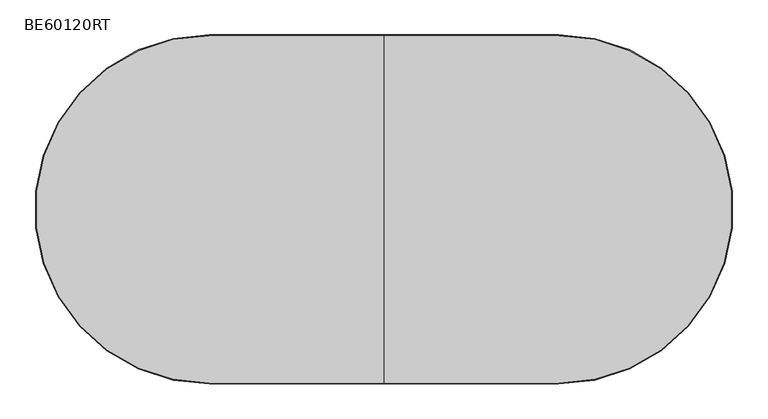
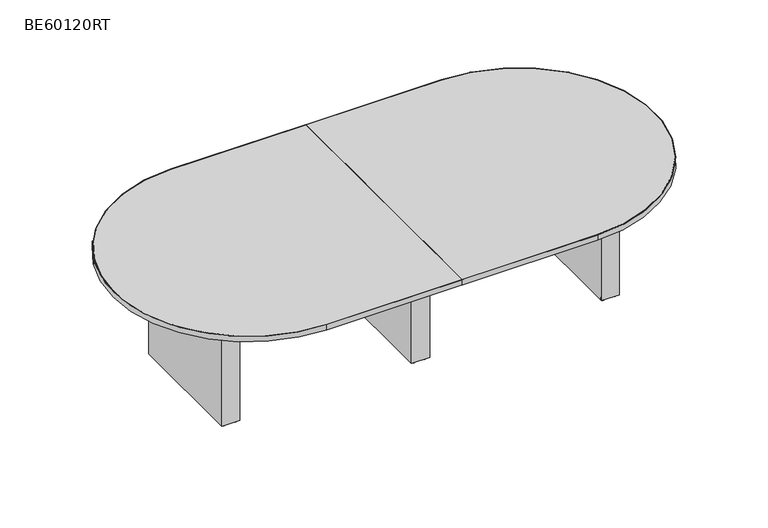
"""IFC4 building model written with IfcOpenShell, lengths in millimetres: furniture geometry, ERG-Beta-Conference_Table-Racetrack : BE60120RT."""

from ifc_helpers import new_model, si_unit, point, frame, frame_2d, origin, origin_with_axes, place, context, project, spatial, polyline, circle_curve, trimmed, segment, composite_curve, outline, extrude, source, transform, mapped, element, save


def be60120rt_78b47af5(model_context):
    return source(origin(), model_context, "Body", "SweptSolid", [
        extrude(outline(composite_curve([segment(trimmed(circle_curve(frame_2d((511.175, 390.276527)), 9.525), [point((501.65, 390.276527))], [point((520.7, 390.276527))], False, "CARTESIAN"), True, "CONTINUOUS"), segment(trimmed(circle_curve(frame_2d((511.175, 390.276527)), 9.525), [point((520.7, 390.276527))], [point((501.65, 390.276527))], False, "CARTESIAN"), True, "CONTINUOUS")], self_intersect=False)), origin_with_axes(), (0.0, 0.0, 1.0), 9.525),
        extrude(outline(composite_curve([segment(trimmed(circle_curve(frame_2d((574.675, 390.276527)), 9.525), [point((565.15, 390.276527))], [point((584.2, 390.276527))], False, "CARTESIAN"), True, "CONTINUOUS"), segment(trimmed(circle_curve(frame_2d((574.675, 390.276527)), 9.525), [point((584.2, 390.276527))], [point((565.15, 390.276527))], False, "CARTESIAN"), True, "CONTINUOUS")], self_intersect=False)), origin_with_axes(), (0.0, 0.0, 1.0), 9.525),
        extrude(outline(composite_curve([segment(trimmed(circle_curve(frame_2d((511.175, -282.823473)), 9.525), [point((501.65, -282.823473))], [point((520.7, -282.823473))], False, "CARTESIAN"), True, "CONTINUOUS"), segment(trimmed(circle_curve(frame_2d((511.175, -282.823473)), 9.525), [point((520.7, -282.823473))], [point((501.65, -282.823473))], False, "CARTESIAN"), True, "CONTINUOUS")], self_intersect=False)), origin_with_axes(), (0.0, 0.0, 1.0), 9.525),
        extrude(outline(composite_curve([segment(trimmed(circle_curve(frame_2d((574.675, -282.823473)), 9.525), [point((565.15, -282.823473))], [point((584.2, -282.823473))], False, "CARTESIAN"), True, "CONTINUOUS"), segment(trimmed(circle_curve(frame_2d((574.675, -282.823473)), 9.525), [point((584.2, -282.823473))], [point((565.15, -282.823473))], False, "CARTESIAN"), True, "CONTINUOUS")], self_intersect=False)), origin_with_axes(), (0.0, 0.0, 1.0), 9.525),
        extrude(outline(polyline([(593.725, 409.326527), (593.725, -301.873473), (492.125, -301.873473), (492.125, 409.326527), (593.725, 409.326527)])), frame((0.0, 0.0, 9.525), z_axis=(0.0, 0.0, 1.0), x_axis=(1.0, 0.0, 0.0)), (0.0, 0.0, 1.0), 695.3249758),
        extrude(outline(composite_curve([segment(trimmed(circle_curve(frame_2d((1577.975, 390.276527)), 9.525), [point((1568.45, 390.276527))], [point((1587.5, 390.276527))], False, "CARTESIAN"), True, "CONTINUOUS"), segment(trimmed(circle_curve(frame_2d((1577.975, 390.276527)), 9.525), [point((1587.5, 390.276527))], [point((1568.45, 390.276527))], False, "CARTESIAN"), True, "CONTINUOUS")], self_intersect=False)), origin_with_axes(), (0.0, 0.0, 1.0), 9.525),
        extrude(outline(composite_curve([segment(trimmed(circle_curve(frame_2d((1641.475, 390.276527)), 9.525), [point((1631.95, 390.276527))], [point((1651.0, 390.276527))], False, "CARTESIAN"), True, "CONTINUOUS"), segment(trimmed(circle_curve(frame_2d((1641.475, 390.276527)), 9.525), [point((1651.0, 390.276527))], [point((1631.95, 390.276527))], False, "CARTESIAN"), True, "CONTINUOUS")], self_intersect=False)), origin_with_axes(), (0.0, 0.0, 1.0), 9.525),
        extrude(outline(composite_curve([segment(trimmed(circle_curve(frame_2d((1577.975, -282.823473)), 9.525), [point((1568.45, -282.823473))], [point((1587.5, -282.823473))], False, "CARTESIAN"), True, "CONTINUOUS"), segment(trimmed(circle_curve(frame_2d((1577.975, -282.823473)), 9.525), [point((1587.5, -282.823473))], [point((1568.45, -282.823473))], False, "CARTESIAN"), True, "CONTINUOUS")], self_intersect=False)), origin_with_axes(), (0.0, 0.0, 1.0), 9.525),
        extrude(outline(composite_curve([segment(trimmed(circle_curve(frame_2d((1641.475, -282.823473)), 9.525), [point((1631.95, -282.823473))], [point((1651.0, -282.823473))], False, "CARTESIAN"), True, "CONTINUOUS"), segment(trimmed(circle_curve(frame_2d((1641.475, -282.823473)), 9.525), [point((1651.0, -282.823473))], [point((1631.95, -282.823473))], False, "CARTESIAN"), True, "CONTINUOUS")], self_intersect=False)), origin_with_axes(), (0.0, 0.0, 1.0), 9.525),
        extrude(outline(polyline([(1660.525, 409.326527), (1660.525, -301.873473), (1558.925, -301.873473), (1558.925, 409.326527), (1660.525, 409.326527)])), frame((0.0, 0.0, 9.525), z_axis=(0.0, 0.0, 1.0), x_axis=(1.0, 0.0, 0.0)), (0.0, 0.0, 1.0), 695.3249758),
        extrude(outline(composite_curve([segment(trimmed(circle_curve(frame_2d((-555.625, 390.276527)), 9.525), [point((-565.15, 390.276527))], [point((-546.1, 390.276527))], False, "CARTESIAN"), True, "CONTINUOUS"), segment(trimmed(circle_curve(frame_2d((-555.625, 390.276527)), 9.525), [point((-546.1, 390.276527))], [point((-565.15, 390.276527))], False, "CARTESIAN"), True, "CONTINUOUS")], self_intersect=False)), origin_with_axes(), (0.0, 0.0, 1.0), 9.525),
        extrude(outline(composite_curve([segment(trimmed(circle_curve(frame_2d((-492.125, 390.276527)), 9.525), [point((-501.65, 390.276527))], [point((-482.6, 390.276527))], False, "CARTESIAN"), True, "CONTINUOUS"), segment(trimmed(circle_curve(frame_2d((-492.125, 390.276527)), 9.525), [point((-482.6, 390.276527))], [point((-501.65, 390.276527))], False, "CARTESIAN"), True, "CONTINUOUS")], self_intersect=False)), origin_with_axes(), (0.0, 0.0, 1.0), 9.525),
        extrude(outline(composite_curve([segment(trimmed(circle_curve(frame_2d((-555.625, -282.823473)), 9.525), [point((-565.15, -282.823473))], [point((-546.1, -282.823473))], False, "CARTESIAN"), True, "CONTINUOUS"), segment(trimmed(circle_curve(frame_2d((-555.625, -282.823473)), 9.525), [point((-546.1, -282.823473))], [point((-565.15, -282.823473))], False, "CARTESIAN"), True, "CONTINUOUS")], self_intersect=False)), origin_with_axes(), (0.0, 0.0, 1.0), 9.525),
        extrude(outline(composite_curve([segment(trimmed(circle_curve(frame_2d((-492.125, -282.823473)), 9.525), [point((-501.65, -282.823473))], [point((-482.6, -282.823473))], False, "CARTESIAN"), True, "CONTINUOUS"), segment(trimmed(circle_curve(frame_2d((-492.125, -282.823473)), 9.525), [point((-482.6, -282.823473))], [point((-501.65, -282.823473))], False, "CARTESIAN"), True, "CONTINUOUS")], self_intersect=False)), origin_with_axes(), (0.0, 0.0, 1.0), 9.525),
        extrude(outline(polyline([(-473.075, 409.326527), (-473.075, -301.873473), (-574.675, -301.873473), (-574.675, 409.326527), (-473.075, 409.326527)])), frame((0.0, 0.0, 9.525), z_axis=(0.0, 0.0, 1.0), x_axis=(1.0, 0.0, 0.0)), (0.0, 0.0, 1.0), 695.3249758),
        extrude(outline(composite_curve([segment(trimmed(circle_curve(frame_2d((1304.925, 53.726527)), 758.825), [point((1304.925, 812.551527))], [point((1304.925, -705.098473))], False, "CARTESIAN"), True, "CONTINUOUS"), segment(polyline([(1304.925, -705.098473), (544.5125, -705.098473), (544.5125, 812.551527), (1304.925, 812.551527)]), True, "CONTINUOUS")], self_intersect=False)), frame((0.0, 0.0, 704.85), z_axis=(0.0, 0.0, 1.0), x_axis=(1.0, 0.0, 0.0)), (0.0, 0.0, 1.0), 31.75),
        extrude(outline(composite_curve([segment(trimmed(circle_curve(frame_2d((-219.075, 53.726527)), 758.825), [point((-219.075, -705.098473))], [point((-219.075, 812.551527))], False, "CARTESIAN"), True, "CONTINUOUS"), segment(polyline([(-219.075, 812.551527), (541.3375, 812.551527), (541.3375, -705.098473), (-219.075, -705.098473)]), True, "CONTINUOUS")], self_intersect=False)), frame((0.0, 0.0, 704.85), z_axis=(0.0, 0.0, 1.0), x_axis=(1.0, 0.0, 0.0)), (0.0, 0.0, 1.0), 31.75),
        extrude(outline(composite_curve([segment(trimmed(circle_curve(frame_2d((1304.925, 53.726527)), 758.825), [point((1304.925, -705.098473))], [point((1304.925, 812.551527))], True, "CARTESIAN"), True, "CONTINUOUS"), segment(polyline([(1304.925, 812.551527), (544.5125, 812.551527), (544.5125, 815.726527), (1304.925, 815.726527)]), True, "CONTINUOUS"), segment(trimmed(circle_curve(frame_2d((1304.925, 53.726527)), 762.0), [point((1304.925, 815.726527))], [point((1304.925, -708.273473))], False, "CARTESIAN"), True, "CONTINUOUS"), segment(polyline([(1304.925, -708.273473), (544.5125, -708.273473), (544.5125, -705.098473), (1304.925, -705.098473)]), True, "CONTINUOUS")], self_intersect=False)), frame((0.0, 0.0, 704.85), z_axis=(0.0, 0.0, 1.0), x_axis=(1.0, 0.0, 0.0)), (0.0, 0.0, 1.0), 31.75),
        extrude(outline(composite_curve([segment(trimmed(circle_curve(frame_2d((-219.075, 53.726527)), 762.0), [point((-219.075, -708.273473))], [point((-219.075, 815.726527))], False, "CARTESIAN"), True, "CONTINUOUS"), segment(polyline([(-219.075, 815.726527), (541.3375, 815.726527), (541.3375, 812.551527), (-219.075, 812.551527)]), True, "CONTINUOUS"), segment(trimmed(circle_curve(frame_2d((-219.075, 53.726527)), 758.825), [point((-219.075, 812.551527))], [point((-219.075, -705.098473))], True, "CARTESIAN"), True, "CONTINUOUS"), segment(polyline([(-219.075, -705.098473), (541.3375, -705.098473), (541.3375, -708.273473), (-219.075, -708.273473)]), True, "CONTINUOUS")], self_intersect=False)), frame((0.0, 0.0, 704.85), z_axis=(0.0, 0.0, 1.0), x_axis=(1.0, 0.0, 0.0)), (0.0, 0.0, 1.0), 31.75),
    ])


if __name__ == "__main__":
    model = new_model("IFC4")
    model_context = context("Model", 3, world=origin())
    ifc_project = project(units=[si_unit("LENGTHUNIT", "METRE", prefix="MILLI")], contexts=[model_context])
    site = spatial("IfcSite", under=ifc_project)
    building = spatial("IfcBuilding", under=site)
    placement = place(None, origin())
    be60120rt_shape = be60120rt_78b47af5(model_context)
    element("IfcFurniture", 1, ObjectType="ERG-Beta-Conference_Table-Racetrack : BE60120RT", at=placement, inside=building, context=model_context, shape_type="MappedRepresentation", body=[
        mapped(be60120rt_shape, transform((0.0, 0.0, 0.0), x_axis=(1.0, 0.0, 0.0), y_axis=(0.0, 1.0, 0.0), z_axis=(0.0, 0.0, 1.0))),
    ])
    save(model, "model.ifc")
